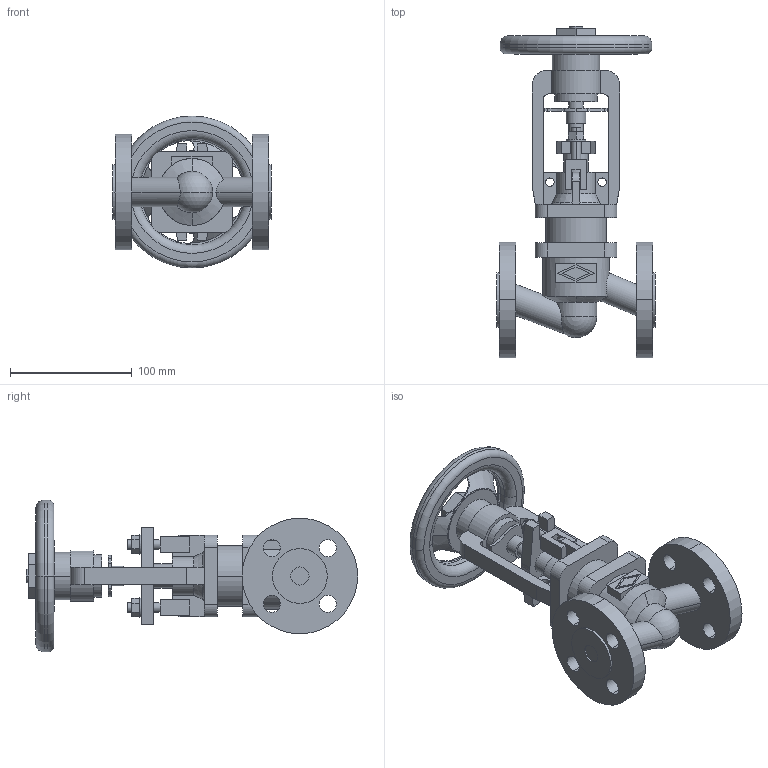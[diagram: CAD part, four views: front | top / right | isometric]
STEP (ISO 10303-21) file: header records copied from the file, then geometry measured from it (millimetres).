
FILE_DESCRIPTION(('OneSpaceDesigner STEP Export'),'2;1');
FILE_NAME('c000003735.stp','2009-06-15T13:03:23',(''),(''),'OneSpace Designer STEP processor for AP214 (Solid Model)','OneSpace Modeling 15.50B 03-Nov-2007 (C) CoCreate Software GmbH','');
FILE_SCHEMA(('AUTOMOTIVE_DESIGN { 1 0 10303 214 1 1 1 1 }'));
Length unit declared in the file: millimetre
Products named in the file (1): 1
Bounding box: 130 x 272.5 x 125 mm (x, y, z)
Volume: 721871.6 mm3; surface area: 141955.5 mm2
Topology: 1 solids, 1 shells, 282 faces, 752 edges, 494 vertices
Faces by surface type: plane 140, cylinder 113, torus 14, cone 13, sphere 2
Entity records: 11030 total; most frequent: CARTESIAN_POINT 2073, ORIENTED_EDGE 1500, DIRECTION 1246, EDGE_CURVE 750, VERTEX_POINT 494, VECTOR 418, LINE 418, AXIS2_PLACEMENT_3D 414
